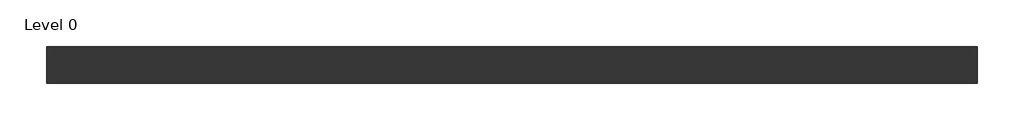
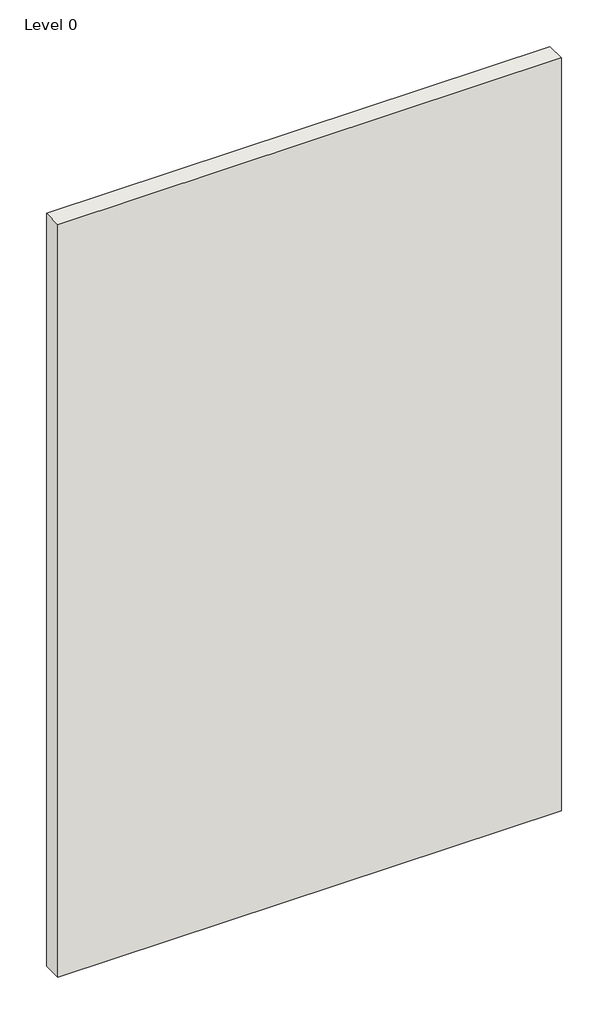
# One storey: 1 wall.
"""IFC4 building model written with IfcOpenShell, lengths in millimetres."""

import ifcopenshell
import ifcopenshell.guid

model = None  # the IFC model being written
_history = None  # IfcOwnerHistory: only IFC2X3 demands one
_inside = {}  # id of a spatial element -> (the spatial element, [elements in it])
_under = {}  # id of a project, library or spatial element -> (it, [spatial elements below it])
_declared = {}  # id of a project -> (the project, [libraries it declares])
_typed = {}  # id of a type object -> (the type object, [elements of that type])
_made_of = {}  # id of a material, layer set ... -> (it, [elements and type objects made of it])


def new_model(schema):
    """Start an empty IFC model of exactly this schema.

    Asked for "IFC4X3", IfcOpenShell would pick the latest addendum, in which some entities
    have other attributes; the version numbers below select the first issue.
    IFC2X3 requires an IfcOwnerHistory on every rooted entity: one is made here for all.
    """
    global model, _history
    if schema == "IFC4X3":
        model = ifcopenshell.file(schema_version=(4, 3, 0, 0))
    else:
        model = ifcopenshell.file(schema=schema)
    _inside.clear()
    _under.clear()
    _declared.clear()
    _typed.clear()
    _made_of.clear()
    _history = None
    if model.schema == "IFC2X3":
        org = make("IfcOrganization", Name="unknown")
        user = make(
            "IfcPersonAndOrganization",
            ThePerson=make("IfcPerson", FamilyName="unknown"),
            TheOrganization=org,
        )
        app = make(
            "IfcApplication",
            ApplicationDeveloper=org,
            Version="unknown",
            ApplicationFullName="unknown",
            ApplicationIdentifier="unknown",
        )
        _history = make(
            "IfcOwnerHistory",
            OwningUser=user,
            OwningApplication=app,
            ChangeAction="ADDED",
            CreationDate=0,
        )
    return model


def make(cls, **values):
    """One entity of the class cls with the attributes given. An attribute that is None is left unset."""
    return model.create_entity(
        cls, **{name: value for name, value in values.items() if value is not None}
    )


def rooted(cls, **values):
    """An entity with a GlobalId (a new one), such as an element, a storey or a relation."""
    return make(cls, GlobalId=ifcopenshell.guid.new(), OwnerHistory=_history, **values)


def si_unit(unit_type, name, prefix=None):
    """IfcSIUnit, for example si_unit("LENGTHUNIT", "METRE", prefix="MILLI")."""
    return make("IfcSIUnit", UnitType=unit_type, Prefix=prefix, Name=name)


def assignment(units):
    """IfcUnitAssignment: the units of a project."""
    return None if units is None else make("IfcUnitAssignment", Units=units)


def point(xyz):
    """IfcCartesianPoint."""
    return None if xyz is None else make("IfcCartesianPoint", Coordinates=xyz)


def direction(xyz):
    """IfcDirection."""
    return None if xyz is None else make("IfcDirection", DirectionRatios=xyz)


def frame(location, z_axis=None, x_axis=None):
    """IfcAxis2Placement3D, a coordinate frame: its origin and axes. An axis left out is left unset."""
    return make(
        "IfcAxis2Placement3D",
        Location=point(location),
        Axis=direction(z_axis),
        RefDirection=direction(x_axis),
    )


def origin():
    """The frame at (0, 0, 0) with its axes left unset."""
    return frame((0.0, 0.0, 0.0))


def origin_with_axes():
    """The frame at (0, 0, 0) with the z axis (0, 0, 1) and the x axis (1, 0, 0) written out."""
    return frame((0.0, 0.0, 0.0), z_axis=(0.0, 0.0, 1.0), x_axis=(1.0, 0.0, 0.0))


def place(relative_to, where):
    """IfcLocalPlacement: puts the frame where relative to a parent placement (None: the world)."""
    return make(
        "IfcLocalPlacement", PlacementRelTo=relative_to, RelativePlacement=where
    )


def context(
    kind, dimensions, precision=None, world=None, true_north=None, identifier=None
):
    """IfcGeometricRepresentationContext, for example the 3D "Model" context."""
    return make(
        "IfcGeometricRepresentationContext",
        ContextIdentifier=identifier,
        ContextType=kind,
        CoordinateSpaceDimension=dimensions,
        Precision=precision,
        WorldCoordinateSystem=world,
        TrueNorth=true_north,
    )


def project(units=None, contexts=None):
    """IfcProject with its units and contexts."""
    return rooted(
        "IfcProject",
        Name="project",
        RepresentationContexts=contexts,
        UnitsInContext=assignment(units),
    )


def spatial(cls, under=None, at=None, **own):
    """A site, building, storey or space (cls), placed at a placement, below another one or the project."""
    s = rooted(cls, ObjectPlacement=at, **own)
    if under is not None:
        _under.setdefault(under.id(), (under, []))[1].append(s)
    return s


def polyline(points):
    """IfcPolyline through the points."""
    return make("IfcPolyline", Points=[point(p) for p in points])


def outline(outer, holes=None, kind="AREA"):
    """IfcArbitraryClosedProfileDef: a profile drawn as a closed curve; with holes, ...WithVoids."""
    if holes is None:
        return make("IfcArbitraryClosedProfileDef", ProfileType=kind, OuterCurve=outer)
    return make(
        "IfcArbitraryProfileDefWithVoids",
        ProfileType=kind,
        OuterCurve=outer,
        InnerCurves=holes,
    )


def extrude(swept, where, along, depth):
    """IfcExtrudedAreaSolid: the profile swept, set in the frame where, extruded along a direction by depth."""
    return make(
        "IfcExtrudedAreaSolid",
        SweptArea=swept,
        Position=where,
        ExtrudedDirection=direction(along),
        Depth=depth,
    )


def shape(context_of_items, identifier, shape_type, items):
    """IfcShapeRepresentation: the items that make up one representation, for example the "Body"."""
    return make(
        "IfcShapeRepresentation",
        ContextOfItems=context_of_items,
        RepresentationIdentifier=identifier,
        RepresentationType=shape_type,
        Items=items,
    )


def made_of(thing, what):
    """Note that an element or type object is made of a material, layer set ...; save() writes the relation."""
    if what is not None:
        _made_of.setdefault(what.id(), (what, []))[1].append(thing)
    return thing


def element(
    cls,
    number,
    at=None,
    inside=None,
    cuts=None,
    type_object=None,
    material=None,
    context=None,
    identifier="Body",
    shape_type=None,
    held_by="IfcProductDefinitionShape",
    body=None,
    shapes=None,
    **own,
):
    """One element of the class cls, such as IfcWall. Its Tag is "e" and its number.

    at: its placement. inside: the storey or other place that contains it. cuts: it is an
    opening in that element (IfcRelVoidsElement). A single representation is given by context,
    identifier, shape_type and body (its items); several are given by shapes. held_by: the class
    of the entity that holds the representations. save() writes the other relations.
    """
    e = rooted(cls, Tag="e%d" % number, ObjectPlacement=at, **own)
    if body is not None:
        shapes = [shape(context, identifier, shape_type, body)]
    if shapes is not None:
        e.Representation = make(held_by, Representations=shapes)
    if inside is not None:
        _inside.setdefault(inside.id(), (inside, []))[1].append(e)
    if cuts is not None:
        rooted(
            "IfcRelVoidsElement", RelatingBuildingElement=cuts, RelatedOpeningElement=e
        )
    if type_object is not None:
        _typed.setdefault(type_object.id(), (type_object, []))[1].append(e)
    return made_of(e, material)


def aggregate(whole, parts):
    """IfcRelAggregates: a whole, such as a stair, and the parts it consists of."""
    return rooted("IfcRelAggregates", RelatingObject=whole, RelatedObjects=parts)


def save(model, path):
    """Write the relations noted so far, then the file.

    IfcRelAggregates (storeys below a building ...), IfcRelContainedInSpatialStructure (elements
    in a storey), IfcRelDefinesByType, IfcRelAssociatesMaterial and IfcRelDeclares: one each for
    every whole, place, type object, material and project.
    """
    for whole, parts in _under.values():
        aggregate(whole, parts)
    for where, things in _inside.values():
        rooted(
            "IfcRelContainedInSpatialStructure",
            RelatedElements=things,
            RelatingStructure=where,
        )
    for kind, things in _typed.values():
        rooted("IfcRelDefinesByType", RelatedObjects=things, RelatingType=kind)
    for what, things in _made_of.values():
        rooted("IfcRelAssociatesMaterial", RelatedObjects=things, RelatingMaterial=what)
    for by, libraries in _declared.values():
        rooted("IfcRelDeclares", RelatingContext=by, RelatedDefinitions=libraries)
    model.write(path)


model = new_model("IFC4")

# Units and contexts
model_context = context("Model", 3, world=origin())
ifc_project = project(units=[si_unit("LENGTHUNIT", "METRE", prefix="MILLI")], contexts=[model_context])

# Site, building, storey
site = spatial("IfcSite", under=ifc_project)
building = spatial("IfcBuilding", under=site)
storey = spatial("IfcBuildingStorey", under=building, Name="Level 0", Elevation=0.0)

# Wall
placement = place(None, origin())
element("IfcWall", 1, ObjectType="X606A006 - GypWall Extreme", at=placement, inside=storey, context=model_context, shape_type="SweptSolid", body=[
    extrude(outline(polyline([(1155.997948, 494.2669953), (-1944.002052, 494.2669953), (-1944.002052, 616.2669953), (1155.997948, 616.2669953), (1155.997948, 494.2669953)])), origin_with_axes(), (0.0, 0.0, 1.0), 4900.0),
])

save(model, "model.ifc")
